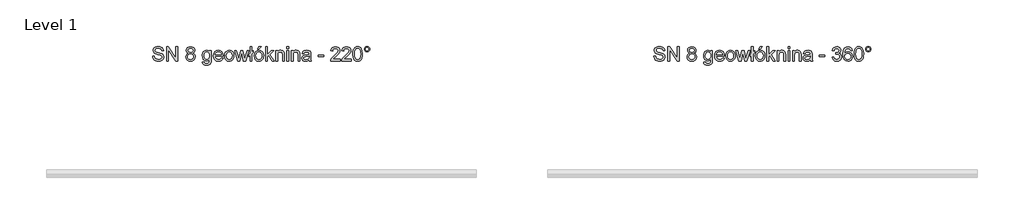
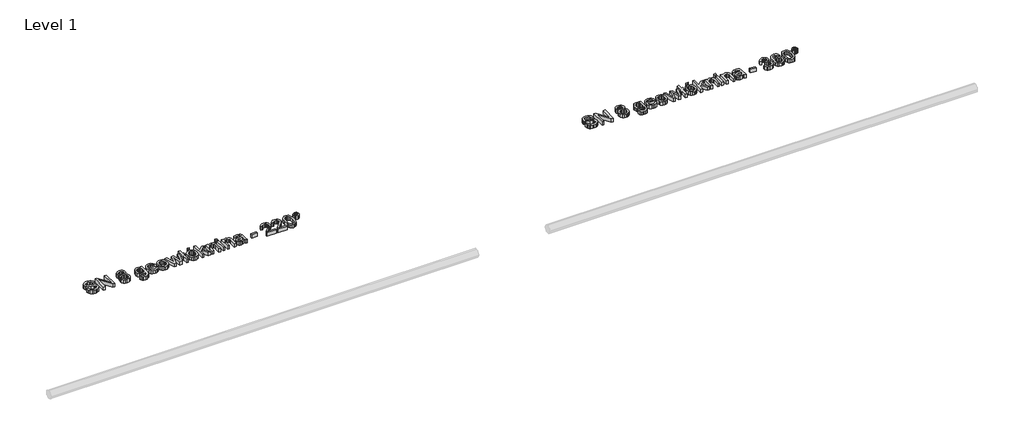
# One storey, part 6 of 9: 2 proxies.
"""IFC4 building model written with IfcOpenShell, lengths in millimetres."""

from ifc_helpers import new_model, si_unit, origin, origin_with_axes, place, context, project, spatial, polyline, outline, extrude, element, save

model = new_model("IFC4")

# Units and contexts
model_context = context("Model", 3, world=origin())
ifc_project = project(units=[si_unit("LENGTHUNIT", "METRE", prefix="MILLI")], contexts=[model_context])

# Site, building, storey
site = spatial("IfcSite", under=ifc_project)
building = spatial("IfcBuilding", under=site)
storey = spatial("IfcBuildingStorey", under=building, Name="Level 1", Elevation=0.0)

# Proxies
placement = place(None, origin())
element("IfcBuildingElementProxy", 1, Name="200mm Arial", ObjectType="200mm Arial", at=placement, inside=storey, context=model_context, shape_type="SweptSolid", body=[
    extrude(outline(polyline([(12447.9311838, 2231.0128426), (12473.0452613, 2231.0128426), (12481.1386652, 2205.8742396), (12489.2688573, 2196.983758), (12500.9061911, 2189.9817374), (12515.1309616, 2185.4383947), (12531.0234637, 2183.9239472), (12557.2657127, 2188.5102094), (12574.21281, 2201.1162991), (12579.7800908, 2217.9652945), (12575.6107616, 2233.6370675), (12569.2586658, 2239.8358791), (12558.541037, 2245.0414093), (12521.9735667, 2254.6308667), (12482.6101932, 2267.0162272), (12470.1083367, 2275.4652503), (12461.248512, 2285.7046325), (12455.9694054, 2297.5136446), (12454.2097032, 2310.6715573), (12456.3863383, 2325.3807057), (12462.9162437, 2339.0965728), (12473.6277411, 2350.7216438), (12488.3491523, 2359.1584042), (12506.0197508, 2364.2903581), (12525.5788102, 2366.0010093), (12546.7688131, 2364.2106503), (12565.3100657, 2358.8395732), (12580.5403803, 2349.9981425), (12591.7975694, 2337.796723), (12598.9222173, 2322.9956041), (12601.7549087, 2306.3550752), (12576.6408312, 2306.3550752), (12572.0300435, 2321.3401351), (12562.4160607, 2332.1558658), (12547.3942125, 2338.7041653), (12526.5598289, 2340.8869318), (12505.2349359, 2338.7286908), (12490.6054952, 2332.2539676), (12482.1442093, 2322.725824), (12479.3237807, 2311.4073212), (12481.3226062, 2301.7565502), (12487.3190827, 2293.9942401), (12501.4948023, 2287.0535332), (12528.3256625, 2279.9656734), (12572.7658075, 2267.3595837), (12587.0825484, 2258.2483729), (12597.0705446, 2247.0034466), (12602.9382624, 2233.7474321), (12604.8941684, 2218.6029566), (12602.6439568, 2203.121256), (12595.8933222, 2188.5592603), (12584.918176, 2176.026747), (12569.9944298, 2166.6334934), (12552.0479198, 2160.7657756), (12532.0044824, 2158.8098696), (12507.3993083, 2160.9190598), (12487.1474045, 2167.2466301), (12471.015779, 2177.8171061), (12458.7714399, 2192.6550132), (12450.9110279, 2210.7302819), (12447.9311838, 2231.0128426)])), origin_with_axes(), (0.0, 0.0, 1.0), 50.0),
    extrude(outline(polyline([(12642.5652847, 2161.9491293), (12642.5652847, 2362.8617496), (12669.4451958, 2362.8617496), (12774.4141918, 2203.6914731), (12774.4141918, 2362.8617496), (12799.5282693, 2362.8617496), (12799.5282693, 2161.9491293), (12772.6483582, 2161.9491293), (12667.6793622, 2321.1684569), (12667.6793622, 2161.9491293), (12642.5652847, 2161.9491293)])), origin_with_axes(), (0.0, 0.0, 1.0), 50.0),
    extrude(outline(polyline([(12949.133614, 2272.6080335), (12935.6875271, 2279.2299094), (12926.2513539, 2288.2062301), (12920.6779417, 2299.3530545), (12918.8201376, 2312.4864418), (12922.8668395, 2332.1190776), (12935.0069454, 2348.3426736), (12953.8792917, 2359.2319806), (12978.1227152, 2362.8617496), (13002.5132915, 2359.1461415), (13021.6308925, 2347.999317), (13033.9917276, 2331.5182037), (13038.1120059, 2311.7997287), (13036.2787273, 2299.0894058), (13030.7788915, 2288.1326537), (13021.5511848, 2279.2115153), (13008.5342935, 2272.6080335), (13023.9914687, 2264.6433883), (13035.2425263, 2252.914084), (13042.1035255, 2237.9842064), (13044.3905253, 2220.4178411), (13039.853314, 2196.4074096), (13026.2416802, 2176.5663073), (13005.2233555, 2163.2489791), (12978.4660717, 2158.8098696), (12951.708788, 2163.2673732), (12930.6904633, 2176.6398837), (12917.0788295, 2196.6710583), (12912.5416182, 2221.1045542), (12914.9205884, 2239.3515011), (12922.0574992, 2254.3610865), (12933.5844683, 2265.6182756), (12949.133614, 2272.6080335)]), holes=[polyline([(12943.9342151, 2311.7506778), (12946.1599012, 2300.7877943), (12952.8369594, 2292.0322028), (12963.769186, 2286.2932437), (12978.7603773, 2284.3802573), (12993.4020808, 2286.280981), (13004.1687605, 2291.9831519), (13010.7906364, 2300.4444378), (13012.9979284, 2310.6225063), (13010.71706, 2321.186851), (13003.8744549, 2329.9240483), (12992.9606224, 2335.7917662), (12978.4660717, 2337.7476721), (12963.8795506, 2335.8346857), (12952.9841122, 2330.0957266), (12946.1966894, 2321.6834916), (12943.9342151, 2311.7506778)]), polyline([(12937.6556958, 2221.987471), (12941.8495505, 2203.0783364), (12947.6559547, 2194.9665384), (12956.6874576, 2188.9271423), (12978.6622755, 2183.9239472), (12995.7565255, 2186.5543035), (13008.5833444, 2194.4453722), (13016.6031719, 2206.3954057), (13019.2764477, 2221.202656), (13016.5173328, 2236.2612924), (13008.2399879, 2248.4749746), (12995.1188634, 2256.5683785), (12977.8284096, 2259.2661798), (12960.9732829, 2256.6051667), (12948.2752227, 2248.6221274), (12940.3105775, 2236.6414371), (12937.6556958, 2221.987471)])]), origin_with_axes(), (0.0, 0.0, 1.0), 50.0),
    extrude(outline(polyline([(13144.8468354, 2149.3920906), (13169.960913, 2146.2528309), (13172.7322907, 2138.4046817), (13178.1033678, 2133.0090791), (13188.6615811, 2128.8152243), (13202.4816813, 2127.4172727), (13217.2214866, 2128.9991653), (13228.1843701, 2133.744843), (13235.7872646, 2141.3477376), (13240.4471032, 2151.5012807), (13242.1638859, 2180.7846875), (13224.4810247, 2166.6580189), (13202.9231397, 2161.9491293), (13177.0303786, 2167.4305711), (13157.7227053, 2183.8748963), (13145.7113581, 2207.9834297), (13141.7075757, 2236.4574961), (13143.5040662, 2256.7339254), (13148.8935374, 2275.3794112), (13157.6859171, 2291.1799429), (13169.6911328, 2302.9215099), (13184.4983831, 2310.2055734), (13201.6968664, 2312.6335946), (13224.1008799, 2307.1398901), (13242.1638859, 2290.6587767), (13242.1638859, 2309.4943349), (13267.2779634, 2309.4943349), (13267.2779634, 2182.1090627), (13265.5611808, 2152.6968972), (13260.4108329, 2133.3279101), (13251.5387454, 2120.4826971), (13238.6567442, 2110.6418537), (13222.0468721, 2104.3878598), (13201.991172, 2102.3031952), (13178.624534, 2105.2401198), (13160.2243028, 2114.0508936), (13148.4214222, 2128.760042), (13144.8468354, 2149.3920906)]), holes=[polyline([(13166.8216533, 2238.1742787), (13169.5010605, 2215.1387345), (13177.5392821, 2199.3014146), (13189.6242056, 2190.1227588), (13204.4437187, 2187.0632069), (13219.1528671, 2190.1043647), (13231.2991043, 2199.2278382), (13239.4476905, 2214.862823), (13242.1638859, 2237.4385148), (13239.3679827, 2259.2109975), (13230.9802732, 2274.8889019), (13218.6562264, 2284.3618632), (13204.0513112, 2287.519517), (13189.7100447, 2284.4109142), (13177.6864349, 2275.0851056), (13169.5378487, 2259.6401932), (13166.8216533, 2238.1742787)])]), origin_with_axes(), (0.0, 0.0, 1.0), 50.0),
    extrude(outline(polyline([(13408.250344, 2205.898765), (13432.8739122, 2202.7595053), (13424.0018247, 2184.20599), (13409.8444993, 2170.3368388), (13390.7207669, 2161.6916119), (13366.9494587, 2158.8098696), (13337.4821108, 2163.782408), (13314.8083172, 2178.7000229), (13300.3505548, 2202.5939584), (13295.5313007, 2234.4954588), (13300.3996057, 2267.4699483), (13315.0045209, 2292.1303047), (13337.3717462, 2307.5077721), (13365.5269816, 2312.6335946), (13392.8054315, 2307.5200348), (13414.6024398, 2292.1793556), (13428.8946553, 2267.5680502), (13433.6587271, 2234.6426116), (13433.5115743, 2227.8735829), (13320.6453782, 2227.8735829), (13324.9925171, 2209.0748129), (13335.0908779, 2195.2547126), (13349.6651362, 2186.7566385), (13367.439968, 2183.9239472), (13392.0635362, 2189.172397), (13401.2115351, 2195.9782139), (13408.250344, 2205.898765)]), holes=[polyline([(13320.6453782, 2252.9876604), (13408.5446496, 2252.9876604), (13405.1478725, 2266.2559377), (13398.4892084, 2275.7472932), (13383.847505, 2284.5764611), (13365.4288797, 2287.519517), (13348.5001766, 2285.1712036), (13334.5022667, 2278.1262634), (13324.7717879, 2267.1449859), (13320.6453782, 2252.9876604)])]), origin_with_axes(), (0.0, 0.0, 1.0), 50.0),
    extrude(outline(polyline([(13452.4942853, 2235.7217321), (13457.9266761, 2271.295921), (13464.7171646, 2285.119087), (13474.2238484, 2296.299634), (13494.3592563, 2308.5501044), (13518.4677897, 2312.6335946), (13544.8510602, 2307.6610563), (13565.9245671, 2292.7434414), (13579.738536, 2269.0579722), (13584.3431923, 2237.7818713), (13582.3075786, 2212.4102763), (13576.2007375, 2193.0964716), (13566.2004786, 2178.6325778), (13552.4846116, 2167.8107158), (13536.1935705, 2161.0600812), (13518.4677897, 2158.8098696), (13491.7656883, 2163.7640139), (13470.7167068, 2178.6264465), (13457.0498906, 2202.8085563), (13452.4942853, 2235.7217321)]), holes=[polyline([(13477.6083628, 2235.770783), (13480.5146306, 2213.0418071), (13489.2334339, 2196.848868), (13502.3545583, 2187.1551774), (13518.4677897, 2183.9239472), (13534.5074447, 2187.1735715), (13547.6040438, 2196.9224443), (13556.322847, 2213.3299813), (13559.2291148, 2236.555598), (13556.3044529, 2258.6223863), (13547.5304674, 2274.5945963), (13534.4154742, 2284.2882868), (13518.4677897, 2287.519517), (13502.3545583, 2284.3005496), (13489.2334339, 2274.6436472), (13480.5146306, 2258.4874962), (13477.6083628, 2235.770783)])]), origin_with_axes(), (0.0, 0.0, 1.0), 50.0),
    extrude(outline(polyline([(13637.072945, 2161.9491293), (13592.1913416, 2309.4943349), (13618.2864378, 2309.4943349), (13643.7438718, 2223.409948), (13651.3467664, 2192.6550132), (13657.5762348, 2222.2817766), (13677.83427, 2309.4943349), (13707.755339, 2309.4943349), (13727.9152723, 2222.5270312), (13733.4580277, 2195.696171), (13741.4042788, 2223.9985592), (13766.9107638, 2309.4943349), (13793.1039619, 2309.4943349), (13747.8790019, 2161.9491293), (13717.5164746, 2161.9491293), (13698.239458, 2248.4749746), (13692.6476517, 2275.4529876), (13667.7788288, 2161.9491293), (13637.072945, 2161.9491293)])), origin_with_axes(), (0.0, 0.0, 1.0), 50.0),
    extrude(outline(polyline([(13810.3698902, 2241.3625894), (13791.534332, 2226.303953), (13791.534332, 2254.5572903), (13810.3698902, 2269.6159266), (13810.3698902, 2362.8617496), (13835.4839677, 2362.8617496), (13835.4839677, 2289.726809), (13854.3195259, 2304.7854453), (13854.3195259, 2276.5321081), (13835.4839677, 2261.4734718), (13835.4839677, 2161.9491293), (13810.3698902, 2161.9491293), (13810.3698902, 2241.3625894)])), origin_with_axes(), (0.0, 0.0, 1.0), 50.0),
    extrude(outline(polyline([(13913.96546, 2325.1906333), (13932.8010182, 2362.8617496), (13964.1936151, 2362.8617496), (13932.8010182, 2325.1906333), (13913.96546, 2325.1906333)])), origin_with_axes(), (0.0, 0.0, 1.0), 50.0),
    extrude(outline(polyline([(13866.8765646, 2235.7217321), (13872.3089554, 2271.295921), (13879.0994439, 2285.119087), (13888.6061278, 2296.299634), (13908.7415357, 2308.5501044), (13932.8500691, 2312.6335946), (13959.2333395, 2307.6610563), (13980.3068465, 2292.7434414), (13994.1208154, 2269.0579722), (13998.7254717, 2237.7818713), (13996.689858, 2212.4102763), (13990.5830169, 2193.0964716), (13980.582758, 2178.6325778), (13966.8668909, 2167.8107158), (13950.5758499, 2161.0600812), (13932.8500691, 2158.8098696), (13906.1479676, 2163.7640139), (13885.0989861, 2178.6264465), (13871.43217, 2202.8085563), (13866.8765646, 2235.7217321)]), holes=[polyline([(13891.9906422, 2235.770783), (13894.8969099, 2213.0418071), (13903.6157132, 2196.848868), (13916.7368377, 2187.1551774), (13932.8500691, 2183.9239472), (13948.8897241, 2187.1735715), (13961.9863231, 2196.9224443), (13970.7051264, 2213.3299813), (13973.6113942, 2236.555598), (13970.6867323, 2258.6223863), (13961.9127467, 2274.5945963), (13948.7977536, 2284.2882868), (13932.8500691, 2287.519517), (13916.7368377, 2284.3005496), (13903.6157132, 2274.6436472), (13894.8969099, 2258.4874962), (13891.9906422, 2235.770783)])]), origin_with_axes(), (0.0, 0.0, 1.0), 50.0),
    extrude(outline(polyline([(14026.9788089, 2161.9491293), (14026.9788089, 2362.8617496), (14052.0928865, 2362.8617496), (14052.0928865, 2254.9006468), (14108.4033572, 2309.4943349), (14143.1314175, 2309.4943349), (14086.1342338, 2254.2139337), (14146.2706772, 2161.9491293), (14116.9382195, 2161.9491293), (14068.1325415, 2236.7518017), (14052.0928865, 2221.202656), (14052.0928865, 2161.9491293), (14026.9788089, 2161.9491293)])), origin_with_axes(), (0.0, 0.0, 1.0), 50.0),
    extrude(outline(polyline([(14168.2454951, 2161.9491293), (14168.2454951, 2309.4943349), (14193.3595726, 2309.4943349), (14193.3595726, 2288.8929431), (14202.0845073, 2299.2794781), (14212.5630128, 2306.6984317), (14224.7950891, 2311.1498039), (14238.7807363, 2312.6335946), (14262.4968622, 2307.8511286), (14278.68367, 2295.2940899), (14286.2129882, 2276.8264137), (14287.5373634, 2252.546202), (14287.5373634, 2161.9491293), (14262.4232858, 2161.9491293), (14262.4232858, 2249.1616877), (14259.5292808, 2271.3817602), (14249.3021614, 2283.1294586), (14232.0607585, 2287.519517), (14217.3516101, 2285.0547077), (14204.8129654, 2277.6602796), (14196.2229208, 2263.3741954), (14193.3595726, 2240.2344179), (14193.3595726, 2161.9491293), (14168.2454951, 2161.9491293)])), origin_with_axes(), (0.0, 0.0, 1.0), 50.0),
    extrude(outline(polyline([(14322.06922, 2337.7476721), (14322.06922, 2362.8617496), (14347.1832975, 2362.8617496), (14347.1832975, 2337.7476721), (14322.06922, 2337.7476721)])), origin_with_axes(), (0.0, 0.0, 1.0), 50.0),
    extrude(outline(polyline([(14322.06922, 2161.9491293), (14322.06922, 2309.4943349), (14347.1832975, 2309.4943349), (14347.1832975, 2161.9491293), (14322.06922, 2161.9491293)])), origin_with_axes(), (0.0, 0.0, 1.0), 50.0),
    extrude(outline(polyline([(14384.8544138, 2161.9491293), (14384.8544138, 2309.4943349), (14409.9684914, 2309.4943349), (14409.9684914, 2288.8929431), (14418.693426, 2299.2794781), (14429.1719315, 2306.6984317), (14441.4040079, 2311.1498039), (14455.3896551, 2312.6335946), (14479.105781, 2307.8511286), (14495.2925888, 2295.2940899), (14502.821907, 2276.8264137), (14504.1462821, 2252.546202), (14504.1462821, 2161.9491293), (14479.0322046, 2161.9491293), (14479.0322046, 2249.1616877), (14476.1381996, 2271.3817602), (14465.9110801, 2283.1294586), (14448.6696773, 2287.519517), (14433.9605288, 2285.0547077), (14421.4218842, 2277.6602796), (14412.8318396, 2263.3741954), (14409.9684914, 2240.2344179), (14409.9684914, 2161.9491293), (14384.8544138, 2161.9491293)])), origin_with_axes(), (0.0, 0.0, 1.0), 50.0),
    extrude(outline(polyline([(14632.8559295, 2180.7846875), (14608.5021414, 2163.7640139), (14581.5977049, 2158.8098696), (14560.610037, 2161.7897138), (14545.1283364, 2170.7292463), (14535.5817986, 2184.3040919), (14532.3996194, 2201.1898755), (14537.2066108, 2221.0555032), (14549.8372259, 2235.4764774), (14567.4219853, 2243.7170341), (14589.1515485, 2247.493956), (14632.7087767, 2256.1269201), (14632.8559295, 2261.7187264), (14631.1268841, 2272.9268646), (14625.939748, 2280.259979), (14614.3392024, 2285.7046325), (14598.1769201, 2287.519517), (14583.2163856, 2286.3116378), (14572.768537, 2282.6880002), (14565.643889, 2275.9864165), (14560.6529566, 2265.5446992), (14535.5388791, 2268.6839589), (14546.4036607, 2293.2094252), (14555.6620242, 2301.4622446), (14568.2803766, 2307.5813485), (14601.4142817, 2312.6335946), (14631.8503854, 2308.1699597), (14649.0427373, 2296.9618216), (14656.7437337, 2279.9166225), (14657.9700071, 2257.9418046), (14657.9700071, 2226.6963605), (14659.2453313, 2183.0655559), (14664.2485264, 2161.9491293), (14639.1344489, 2161.9491293), (14632.8559295, 2180.7846875)]), holes=[polyline([(14632.8559295, 2231.0128426), (14592.3398591, 2223.3118461), (14570.7329233, 2219.2406187), (14560.9472622, 2212.6187428), (14557.5136969, 2202.9557091), (14559.3837637, 2195.4877046), (14564.9939641, 2189.3686007), (14574.2216709, 2185.2851106), (14586.9442565, 2183.9239472), (14600.433263, 2185.426132), (14612.3526397, 2189.9326864), (14628.7356512, 2204.476288), (14632.7087767, 2223.9004573), (14632.8559295, 2231.0128426)])]), origin_with_axes(), (0.0, 0.0, 1.0), 50.0),
    extrude(outline(polyline([(14758.4263172, 2221.5950635), (14758.4263172, 2246.709141), (14836.9078095, 2246.709141), (14836.9078095, 2221.5950635), (14758.4263172, 2221.5950635)])), origin_with_axes(), (0.0, 0.0, 1.0), 50.0),
    extrude(outline(polyline([(15066.073767, 2187.0632069), (15066.073767, 2161.9491293), (14934.22486, 2161.9491293), (14936.9226613, 2179.2641086), (14952.1775013, 2205.9232905), (14983.6191492, 2235.0350191), (15026.9801737, 2276.8754646), (15035.1103658, 2291.2964388), (15037.8204298, 2305.3250056), (15035.2636499, 2317.9004385), (15027.5933103, 2328.3544185), (15015.8026924, 2335.3993587), (15000.8850775, 2337.7476721), (14985.2194359, 2335.454541), (14973.0486732, 2328.5751477), (14965.1943926, 2317.6490524), (14962.4781972, 2303.2158155), (14937.3641197, 2306.3550752), (14943.4525667, 2330.6475496), (14956.6166107, 2348.3917245), (14976.1695388, 2359.2442434), (15001.4246378, 2362.8617496), (15026.8636777, 2358.8395732), (15046.3798176, 2346.7730437), (15058.7958349, 2328.746826), (15062.9345074, 2306.8455845), (15058.4708725, 2283.0313567), (15043.6329653, 2258.4077885), (15007.6541062, 2223.9985592), (14978.7631069, 2199.8409748), (14967.4323414, 2187.0632069), (15066.073767, 2187.0632069)])), origin_with_axes(), (0.0, 0.0, 1.0), 50.0),
    extrude(outline(polyline([(15219.897492, 2187.0632069), (15219.897492, 2161.9491293), (15088.0485849, 2161.9491293), (15090.7463862, 2179.2641086), (15106.0012263, 2205.9232905), (15137.4428741, 2235.0350191), (15180.8038986, 2276.8754646), (15188.9340907, 2291.2964388), (15191.6441547, 2305.3250056), (15189.0873749, 2317.9004385), (15181.4170353, 2328.3544185), (15169.6264173, 2335.3993587), (15154.7088024, 2337.7476721), (15139.0431608, 2335.454541), (15126.8723981, 2328.5751477), (15119.0181175, 2317.6490524), (15116.3019221, 2303.2158155), (15091.1878446, 2306.3550752), (15097.2762916, 2330.6475496), (15110.4403357, 2348.3917245), (15129.9932637, 2359.2442434), (15155.2483627, 2362.8617496), (15180.6874026, 2358.8395732), (15200.2035425, 2346.7730437), (15212.6195598, 2328.746826), (15216.7582323, 2306.8455845), (15212.2945974, 2283.0313567), (15197.4566903, 2258.4077885), (15161.4778311, 2223.9985592), (15132.5868318, 2199.8409748), (15121.2560663, 2187.0632069), (15219.897492, 2187.0632069)])), origin_with_axes(), (0.0, 0.0, 1.0), 50.0),
    extrude(outline(polyline([(15245.0115695, 2260.7867587), (15246.8571108, 2292.9457765), (15252.3937349, 2318.5932829), (15261.5662593, 2338.1216855), (15274.3195018, 2351.9233917), (15290.7454329, 2360.1271601), (15310.936023, 2362.8617496), (15326.4115923, 2361.2430689), (15340.2684808, 2356.3870265), (15351.8567636, 2348.483695), (15360.526516, 2337.7231466), (15372.2987398, 2307.9982814), (15376.8604766, 2260.7867587), (15375.0333293, 2228.811682), (15369.5518876, 2203.2254892), (15360.4345455, 2183.6786925), (15347.6996971, 2169.821804), (15331.2369778, 2161.5628532), (15310.936023, 2158.8098696), (15284.8409268, 2163.5923356), (15265.02435, 2177.9397334), (15256.2687586, 2193.0688805), (15250.0147646, 2211.919767), (15245.0115695, 2260.7867587)]), holes=[polyline([(15270.125647, 2260.8358096), (15273.068703, 2221.3314147), (15281.8978709, 2198.4675487), (15295.0435208, 2187.5598476), (15310.936023, 2183.9239472), (15326.8285252, 2187.5721103), (15339.9741752, 2198.5165997), (15348.8033431, 2221.3927284), (15351.746399, 2260.8358096), (15348.9014449, 2299.4511564), (15340.3665826, 2322.492832), (15327.2454582, 2333.9339621), (15310.6417174, 2337.7476721), (15294.9208935, 2334.3876832), (15282.2902783, 2324.3077165), (15273.1668049, 2299.8313011), (15270.125647, 2260.8358096)])]), origin_with_axes(), (0.0, 0.0, 1.0), 50.0),
    extrude(outline(polyline([(15405.1138138, 2328.378944), (15407.8790601, 2342.8612318), (15416.1747991, 2355.0136004), (15428.3455618, 2363.2541571), (15442.7358792, 2366.0010093), (15457.2917434, 2363.2541571), (15469.4686375, 2355.0136004), (15477.7091942, 2342.8612318), (15480.4560464, 2328.378944), (15477.6908001, 2313.9150502), (15469.3950611, 2301.719762), (15457.199773, 2293.4240231), (15442.7358792, 2290.6587767), (15428.3455618, 2293.405629), (15416.1747991, 2301.6461856), (15407.8790601, 2313.8230797), (15405.1138138, 2328.378944)]), holes=[polyline([(15420.8101123, 2328.329893), (15422.4226617, 2319.8808699), (15427.2603099, 2312.7807474), (15434.3788265, 2307.9614932), (15442.833981, 2306.3550752), (15451.2155592, 2307.9614932), (15458.3095503, 2312.7807474), (15463.1471985, 2319.8808699), (15464.759748, 2328.329893), (15463.1471985, 2336.7789162), (15458.3095503, 2343.8790387), (15451.2155592, 2348.6982928), (15442.833981, 2350.3047109), (15434.3788265, 2348.6982928), (15427.2603099, 2343.8790387), (15422.4226617, 2336.7789162), (15420.8101123, 2328.329893)])]), origin_with_axes(), (0.0, 0.0, 1.0), 50.0),
])
element("IfcBuildingElementProxy", 2, Name="200mm Arial", ObjectType="200mm Arial", at=placement, inside=storey, context=model_context, shape_type="SweptSolid", body=[
    extrude(outline(polyline([(19447.9311838, 2231.0128426), (19473.0452613, 2231.0128426), (19481.1386652, 2205.8742396), (19489.2688573, 2196.983758), (19500.9061911, 2189.9817374), (19515.1309616, 2185.4383947), (19531.0234637, 2183.9239472), (19557.2657127, 2188.5102094), (19574.21281, 2201.1162991), (19579.7800908, 2217.9652945), (19575.6107616, 2233.6370675), (19569.2586658, 2239.8358791), (19558.541037, 2245.0414093), (19521.9735667, 2254.6308667), (19482.6101932, 2267.0162272), (19470.1083367, 2275.4652503), (19461.248512, 2285.7046325), (19455.9694054, 2297.5136446), (19454.2097032, 2310.6715573), (19456.3863383, 2325.3807057), (19462.9162437, 2339.0965728), (19473.6277411, 2350.7216438), (19488.3491523, 2359.1584042), (19506.0197508, 2364.2903581), (19525.5788102, 2366.0010093), (19546.7688131, 2364.2106503), (19565.3100657, 2358.8395732), (19580.5403803, 2349.9981425), (19591.7975694, 2337.796723), (19598.9222173, 2322.9956041), (19601.7549087, 2306.3550752), (19576.6408312, 2306.3550752), (19572.0300435, 2321.3401351), (19562.4160607, 2332.1558658), (19547.3942125, 2338.7041653), (19526.5598289, 2340.8869318), (19505.2349359, 2338.7286908), (19490.6054952, 2332.2539676), (19482.1442093, 2322.725824), (19479.3237807, 2311.4073212), (19481.3226062, 2301.7565502), (19487.3190827, 2293.9942401), (19501.4948023, 2287.0535332), (19528.3256625, 2279.9656734), (19572.7658075, 2267.3595837), (19587.0825484, 2258.2483729), (19597.0705446, 2247.0034466), (19602.9382624, 2233.7474321), (19604.8941684, 2218.6029566), (19602.6439568, 2203.121256), (19595.8933222, 2188.5592603), (19584.918176, 2176.026747), (19569.9944298, 2166.6334934), (19552.0479198, 2160.7657756), (19532.0044824, 2158.8098696), (19507.3993083, 2160.9190598), (19487.1474045, 2167.2466301), (19471.015779, 2177.8171061), (19458.7714399, 2192.6550132), (19450.9110279, 2210.7302819), (19447.9311838, 2231.0128426)])), origin_with_axes(), (0.0, 0.0, 1.0), 50.0),
    extrude(outline(polyline([(19642.5652847, 2161.9491293), (19642.5652847, 2362.8617496), (19669.4451958, 2362.8617496), (19774.4141918, 2203.6914731), (19774.4141918, 2362.8617496), (19799.5282693, 2362.8617496), (19799.5282693, 2161.9491293), (19772.6483582, 2161.9491293), (19667.6793622, 2321.1684569), (19667.6793622, 2161.9491293), (19642.5652847, 2161.9491293)])), origin_with_axes(), (0.0, 0.0, 1.0), 50.0),
    extrude(outline(polyline([(19949.133614, 2272.6080335), (19935.6875271, 2279.2299094), (19926.2513539, 2288.2062301), (19920.6779417, 2299.3530545), (19918.8201376, 2312.4864418), (19922.8668395, 2332.1190776), (19935.0069454, 2348.3426736), (19953.8792917, 2359.2319806), (19978.1227152, 2362.8617496), (20002.5132915, 2359.1461415), (20021.6308925, 2347.999317), (20033.9917276, 2331.5182037), (20038.1120059, 2311.7997287), (20036.2787273, 2299.0894058), (20030.7788915, 2288.1326537), (20021.5511848, 2279.2115153), (20008.5342935, 2272.6080335), (20023.9914687, 2264.6433883), (20035.2425263, 2252.914084), (20042.1035255, 2237.9842064), (20044.3905253, 2220.4178411), (20039.853314, 2196.4074096), (20026.2416802, 2176.5663073), (20005.2233555, 2163.2489791), (19978.4660717, 2158.8098696), (19951.708788, 2163.2673732), (19930.6904633, 2176.6398837), (19917.0788295, 2196.6710583), (19912.5416182, 2221.1045542), (19914.9205884, 2239.3515011), (19922.0574992, 2254.3610865), (19933.5844683, 2265.6182756), (19949.133614, 2272.6080335)]), holes=[polyline([(19943.9342151, 2311.7506778), (19946.1599012, 2300.7877943), (19952.8369594, 2292.0322028), (19963.769186, 2286.2932437), (19978.7603773, 2284.3802573), (19993.4020808, 2286.280981), (20004.1687605, 2291.9831519), (20010.7906364, 2300.4444378), (20012.9979284, 2310.6225063), (20010.71706, 2321.186851), (20003.8744549, 2329.9240483), (19992.9606224, 2335.7917662), (19978.4660717, 2337.7476721), (19963.8795506, 2335.8346857), (19952.9841122, 2330.0957266), (19946.1966894, 2321.6834916), (19943.9342151, 2311.7506778)]), polyline([(19937.6556958, 2221.987471), (19941.8495505, 2203.0783364), (19947.6559547, 2194.9665384), (19956.6874576, 2188.9271423), (19978.6622755, 2183.9239472), (19995.7565255, 2186.5543035), (20008.5833444, 2194.4453722), (20016.6031719, 2206.3954057), (20019.2764477, 2221.202656), (20016.5173328, 2236.2612924), (20008.2399879, 2248.4749746), (19995.1188634, 2256.5683785), (19977.8284096, 2259.2661798), (19960.9732829, 2256.6051667), (19948.2752227, 2248.6221274), (19940.3105775, 2236.6414371), (19937.6556958, 2221.987471)])]), origin_with_axes(), (0.0, 0.0, 1.0), 50.0),
    extrude(outline(polyline([(20144.8468354, 2149.3920906), (20169.960913, 2146.2528309), (20172.7322907, 2138.4046817), (20178.1033678, 2133.0090791), (20188.6615811, 2128.8152243), (20202.4816813, 2127.4172727), (20217.2214866, 2128.9991653), (20228.1843701, 2133.744843), (20235.7872646, 2141.3477376), (20240.4471032, 2151.5012807), (20242.1638859, 2180.7846875), (20224.4810247, 2166.6580189), (20202.9231397, 2161.9491293), (20177.0303786, 2167.4305711), (20157.7227053, 2183.8748963), (20145.7113581, 2207.9834297), (20141.7075757, 2236.4574961), (20143.5040662, 2256.7339254), (20148.8935374, 2275.3794112), (20157.6859171, 2291.1799429), (20169.6911328, 2302.9215099), (20184.4983831, 2310.2055734), (20201.6968664, 2312.6335946), (20224.1008799, 2307.1398901), (20242.1638859, 2290.6587767), (20242.1638859, 2309.4943349), (20267.2779634, 2309.4943349), (20267.2779634, 2182.1090627), (20265.5611808, 2152.6968972), (20260.4108329, 2133.3279101), (20251.5387454, 2120.4826971), (20238.6567442, 2110.6418537), (20222.0468721, 2104.3878598), (20201.991172, 2102.3031952), (20178.624534, 2105.2401198), (20160.2243028, 2114.0508936), (20148.4214222, 2128.760042), (20144.8468354, 2149.3920906)]), holes=[polyline([(20166.8216533, 2238.1742787), (20169.5010605, 2215.1387345), (20177.5392821, 2199.3014146), (20189.6242056, 2190.1227588), (20204.4437187, 2187.0632069), (20219.1528671, 2190.1043647), (20231.2991043, 2199.2278382), (20239.4476905, 2214.862823), (20242.1638859, 2237.4385148), (20239.3679827, 2259.2109975), (20230.9802732, 2274.8889019), (20218.6562264, 2284.3618632), (20204.0513112, 2287.519517), (20189.7100447, 2284.4109142), (20177.6864349, 2275.0851056), (20169.5378487, 2259.6401932), (20166.8216533, 2238.1742787)])]), origin_with_axes(), (0.0, 0.0, 1.0), 50.0),
    extrude(outline(polyline([(20408.250344, 2205.898765), (20432.8739122, 2202.7595053), (20424.0018247, 2184.20599), (20409.8444993, 2170.3368388), (20390.7207669, 2161.6916119), (20366.9494587, 2158.8098696), (20337.4821108, 2163.782408), (20314.8083172, 2178.7000229), (20300.3505548, 2202.5939584), (20295.5313007, 2234.4954588), (20300.3996057, 2267.4699483), (20315.0045209, 2292.1303047), (20337.3717462, 2307.5077721), (20365.5269816, 2312.6335946), (20392.8054315, 2307.5200348), (20414.6024398, 2292.1793556), (20428.8946553, 2267.5680502), (20433.6587271, 2234.6426116), (20433.5115743, 2227.8735829), (20320.6453782, 2227.8735829), (20324.9925171, 2209.0748129), (20335.0908779, 2195.2547126), (20349.6651362, 2186.7566385), (20367.439968, 2183.9239472), (20392.0635362, 2189.172397), (20401.2115351, 2195.9782139), (20408.250344, 2205.898765)]), holes=[polyline([(20320.6453782, 2252.9876604), (20408.5446496, 2252.9876604), (20405.1478725, 2266.2559377), (20398.4892084, 2275.7472932), (20383.847505, 2284.5764611), (20365.4288797, 2287.519517), (20348.5001766, 2285.1712036), (20334.5022667, 2278.1262634), (20324.7717879, 2267.1449859), (20320.6453782, 2252.9876604)])]), origin_with_axes(), (0.0, 0.0, 1.0), 50.0),
    extrude(outline(polyline([(20452.4942853, 2235.7217321), (20457.9266761, 2271.295921), (20464.7171646, 2285.119087), (20474.2238484, 2296.299634), (20494.3592563, 2308.5501044), (20518.4677897, 2312.6335946), (20544.8510602, 2307.6610563), (20565.9245671, 2292.7434414), (20579.738536, 2269.0579722), (20584.3431923, 2237.7818713), (20582.3075786, 2212.4102763), (20576.2007375, 2193.0964716), (20566.2004786, 2178.6325778), (20552.4846116, 2167.8107158), (20536.1935705, 2161.0600812), (20518.4677897, 2158.8098696), (20491.7656883, 2163.7640139), (20470.7167068, 2178.6264465), (20457.0498906, 2202.8085563), (20452.4942853, 2235.7217321)]), holes=[polyline([(20477.6083628, 2235.770783), (20480.5146306, 2213.0418071), (20489.2334339, 2196.848868), (20502.3545583, 2187.1551774), (20518.4677897, 2183.9239472), (20534.5074447, 2187.1735715), (20547.6040438, 2196.9224443), (20556.322847, 2213.3299813), (20559.2291148, 2236.555598), (20556.3044529, 2258.6223863), (20547.5304674, 2274.5945963), (20534.4154742, 2284.2882868), (20518.4677897, 2287.519517), (20502.3545583, 2284.3005496), (20489.2334339, 2274.6436472), (20480.5146306, 2258.4874962), (20477.6083628, 2235.770783)])]), origin_with_axes(), (0.0, 0.0, 1.0), 50.0),
    extrude(outline(polyline([(20637.072945, 2161.9491293), (20592.1913416, 2309.4943349), (20618.2864378, 2309.4943349), (20643.7438718, 2223.409948), (20651.3467664, 2192.6550132), (20657.5762348, 2222.2817766), (20677.83427, 2309.4943349), (20707.755339, 2309.4943349), (20727.9152723, 2222.5270312), (20733.4580277, 2195.696171), (20741.4042788, 2223.9985592), (20766.9107638, 2309.4943349), (20793.1039619, 2309.4943349), (20747.8790019, 2161.9491293), (20717.5164746, 2161.9491293), (20698.239458, 2248.4749746), (20692.6476517, 2275.4529876), (20667.7788288, 2161.9491293), (20637.072945, 2161.9491293)])), origin_with_axes(), (0.0, 0.0, 1.0), 50.0),
    extrude(outline(polyline([(20810.3698902, 2241.3625894), (20791.534332, 2226.303953), (20791.534332, 2254.5572903), (20810.3698902, 2269.6159266), (20810.3698902, 2362.8617496), (20835.4839677, 2362.8617496), (20835.4839677, 2289.726809), (20854.3195259, 2304.7854453), (20854.3195259, 2276.5321081), (20835.4839677, 2261.4734718), (20835.4839677, 2161.9491293), (20810.3698902, 2161.9491293), (20810.3698902, 2241.3625894)])), origin_with_axes(), (0.0, 0.0, 1.0), 50.0),
    extrude(outline(polyline([(20913.96546, 2325.1906333), (20932.8010182, 2362.8617496), (20964.1936151, 2362.8617496), (20932.8010182, 2325.1906333), (20913.96546, 2325.1906333)])), origin_with_axes(), (0.0, 0.0, 1.0), 50.0),
    extrude(outline(polyline([(20866.8765646, 2235.7217321), (20872.3089554, 2271.295921), (20879.0994439, 2285.119087), (20888.6061278, 2296.299634), (20908.7415357, 2308.5501044), (20932.8500691, 2312.6335946), (20959.2333395, 2307.6610563), (20980.3068465, 2292.7434414), (20994.1208154, 2269.0579722), (20998.7254717, 2237.7818713), (20996.689858, 2212.4102763), (20990.5830169, 2193.0964716), (20980.582758, 2178.6325778), (20966.8668909, 2167.8107158), (20950.5758499, 2161.0600812), (20932.8500691, 2158.8098696), (20906.1479676, 2163.7640139), (20885.0989861, 2178.6264465), (20871.43217, 2202.8085563), (20866.8765646, 2235.7217321)]), holes=[polyline([(20891.9906422, 2235.770783), (20894.8969099, 2213.0418071), (20903.6157132, 2196.848868), (20916.7368377, 2187.1551774), (20932.8500691, 2183.9239472), (20948.8897241, 2187.1735715), (20961.9863231, 2196.9224443), (20970.7051264, 2213.3299813), (20973.6113942, 2236.555598), (20970.6867323, 2258.6223863), (20961.9127467, 2274.5945963), (20948.7977536, 2284.2882868), (20932.8500691, 2287.519517), (20916.7368377, 2284.3005496), (20903.6157132, 2274.6436472), (20894.8969099, 2258.4874962), (20891.9906422, 2235.770783)])]), origin_with_axes(), (0.0, 0.0, 1.0), 50.0),
    extrude(outline(polyline([(21026.9788089, 2161.9491293), (21026.9788089, 2362.8617496), (21052.0928865, 2362.8617496), (21052.0928865, 2254.9006468), (21108.4033572, 2309.4943349), (21143.1314175, 2309.4943349), (21086.1342338, 2254.2139337), (21146.2706772, 2161.9491293), (21116.9382195, 2161.9491293), (21068.1325415, 2236.7518017), (21052.0928865, 2221.202656), (21052.0928865, 2161.9491293), (21026.9788089, 2161.9491293)])), origin_with_axes(), (0.0, 0.0, 1.0), 50.0),
    extrude(outline(polyline([(21168.2454951, 2161.9491293), (21168.2454951, 2309.4943349), (21193.3595726, 2309.4943349), (21193.3595726, 2288.8929431), (21202.0845073, 2299.2794781), (21212.5630128, 2306.6984317), (21224.7950891, 2311.1498039), (21238.7807363, 2312.6335946), (21262.4968622, 2307.8511286), (21278.68367, 2295.2940899), (21286.2129882, 2276.8264137), (21287.5373634, 2252.546202), (21287.5373634, 2161.9491293), (21262.4232858, 2161.9491293), (21262.4232858, 2249.1616877), (21259.5292808, 2271.3817602), (21249.3021614, 2283.1294586), (21232.0607585, 2287.519517), (21217.3516101, 2285.0547077), (21204.8129654, 2277.6602796), (21196.2229208, 2263.3741954), (21193.3595726, 2240.2344179), (21193.3595726, 2161.9491293), (21168.2454951, 2161.9491293)])), origin_with_axes(), (0.0, 0.0, 1.0), 50.0),
    extrude(outline(polyline([(21322.06922, 2337.7476721), (21322.06922, 2362.8617496), (21347.1832975, 2362.8617496), (21347.1832975, 2337.7476721), (21322.06922, 2337.7476721)])), origin_with_axes(), (0.0, 0.0, 1.0), 50.0),
    extrude(outline(polyline([(21322.06922, 2161.9491293), (21322.06922, 2309.4943349), (21347.1832975, 2309.4943349), (21347.1832975, 2161.9491293), (21322.06922, 2161.9491293)])), origin_with_axes(), (0.0, 0.0, 1.0), 50.0),
    extrude(outline(polyline([(21384.8544138, 2161.9491293), (21384.8544138, 2309.4943349), (21409.9684914, 2309.4943349), (21409.9684914, 2288.8929431), (21418.693426, 2299.2794781), (21429.1719315, 2306.6984317), (21441.4040079, 2311.1498039), (21455.3896551, 2312.6335946), (21479.105781, 2307.8511286), (21495.2925888, 2295.2940899), (21502.821907, 2276.8264137), (21504.1462821, 2252.546202), (21504.1462821, 2161.9491293), (21479.0322046, 2161.9491293), (21479.0322046, 2249.1616877), (21476.1381996, 2271.3817602), (21465.9110801, 2283.1294586), (21448.6696773, 2287.519517), (21433.9605288, 2285.0547077), (21421.4218842, 2277.6602796), (21412.8318396, 2263.3741954), (21409.9684914, 2240.2344179), (21409.9684914, 2161.9491293), (21384.8544138, 2161.9491293)])), origin_with_axes(), (0.0, 0.0, 1.0), 50.0),
    extrude(outline(polyline([(21632.8559295, 2180.7846875), (21608.5021414, 2163.7640139), (21581.5977049, 2158.8098696), (21560.610037, 2161.7897138), (21545.1283364, 2170.7292463), (21535.5817986, 2184.3040919), (21532.3996194, 2201.1898755), (21537.2066108, 2221.0555032), (21549.8372259, 2235.4764774), (21567.4219853, 2243.7170341), (21589.1515485, 2247.493956), (21632.7087767, 2256.1269201), (21632.8559295, 2261.7187264), (21631.1268841, 2272.9268646), (21625.939748, 2280.259979), (21614.3392024, 2285.7046325), (21598.1769201, 2287.519517), (21583.2163856, 2286.3116378), (21572.768537, 2282.6880002), (21565.643889, 2275.9864165), (21560.6529566, 2265.5446992), (21535.5388791, 2268.6839589), (21546.4036607, 2293.2094252), (21555.6620242, 2301.4622446), (21568.2803766, 2307.5813485), (21601.4142817, 2312.6335946), (21631.8503854, 2308.1699597), (21649.0427373, 2296.9618216), (21656.7437337, 2279.9166225), (21657.9700071, 2257.9418046), (21657.9700071, 2226.6963605), (21659.2453313, 2183.0655559), (21664.2485264, 2161.9491293), (21639.1344489, 2161.9491293), (21632.8559295, 2180.7846875)]), holes=[polyline([(21632.8559295, 2231.0128426), (21592.3398591, 2223.3118461), (21570.7329233, 2219.2406187), (21560.9472622, 2212.6187428), (21557.5136969, 2202.9557091), (21559.3837637, 2195.4877046), (21564.9939641, 2189.3686007), (21574.2216709, 2185.2851106), (21586.9442565, 2183.9239472), (21600.433263, 2185.426132), (21612.3526397, 2189.9326864), (21628.7356512, 2204.476288), (21632.7087767, 2223.9004573), (21632.8559295, 2231.0128426)])]), origin_with_axes(), (0.0, 0.0, 1.0), 50.0),
    extrude(outline(polyline([(21758.4263172, 2221.5950635), (21758.4263172, 2246.709141), (21836.9078095, 2246.709141), (21836.9078095, 2221.5950635), (21758.4263172, 2221.5950635)])), origin_with_axes(), (0.0, 0.0, 1.0), 50.0),
    extrude(outline(polyline([(21937.3641197, 2215.3165441), (21962.4781972, 2218.4558038), (21968.1006604, 2202.6736662), (21976.3350857, 2192.0173511), (21987.5861434, 2185.9472982), (22002.2585036, 2183.9239472), (22019.475381, 2186.7075876), (22032.7681837, 2195.0585089), (22041.2662578, 2207.5174458), (22044.0989492, 2222.6251331), (22041.2907833, 2236.9663995), (22032.8662856, 2248.5976019), (22020.1130431, 2256.3047297), (22004.3186428, 2258.8737723), (21986.709358, 2256.1269201), (21989.5052611, 2281.2409976), (21993.5274376, 2280.946692), (22008.5738112, 2282.7493138), (22022.0260295, 2288.1571792), (22031.517385, 2297.3051781), (22034.6811701, 2310.3282007), (22032.388039, 2321.1745882), (22025.5086457, 2329.9730993), (22015.0117461, 2335.8040289), (22001.8660962, 2337.7476721), (21988.6959207, 2335.7856348), (21977.929241, 2329.8995229), (21970.068829, 2320.0893363), (21965.6174569, 2306.3550752), (21940.5033794, 2309.4943349), (21947.8978075, 2332.0455012), (21961.0557202, 2348.8822338), (21979.0574125, 2359.3668707), (22000.9831794, 2362.8617496), (22016.7714483, 2361.1388356), (22031.2721303, 2355.9700936), (22043.4980753, 2347.815376), (22052.4621332, 2337.1345354), (22057.9619691, 2324.8288827), (22059.7952477, 2311.7997287), (22058.0539396, 2299.6596229), (22052.8300152, 2288.6476885), (22044.1970511, 2279.2666976), (22032.2286235, 2272.0194223), (22047.9494474, 2265.6673265), (22059.5990439, 2254.8515959), (22066.809531, 2240.1608415), (22069.2130267, 2222.1836747), (22064.4060353, 2197.7072593), (22049.9850611, 2177.2530203), (22028.2187097, 2163.4206573), (22001.3755868, 2158.8098696), (21977.0953751, 2162.746207), (21957.3278493, 2174.555219), (21943.5813254, 2192.618225), (21937.3641197, 2215.3165441)])), origin_with_axes(), (0.0, 0.0, 1.0), 50.0),
    extrude(outline(polyline([(22219.897492, 2309.4943349), (22194.7834144, 2306.3550752), (22185.2675335, 2327.2998234), (22173.8754544, 2335.1357099), (22160.104405, 2337.7476721), (22137.4428741, 2331.6653565), (22128.0067009, 2322.057505), (22120.2995731, 2308.8321473), (22115.0940429, 2290.1253478), (22113.1626624, 2264.0731712), (22123.2364977, 2275.8270009), (22135.3091585, 2284.1104772), (22148.7061945, 2289.0217018), (22162.7531554, 2290.6587767), (22185.9542465, 2286.1828791), (22205.4274668, 2272.7551863), (22218.6344304, 2252.2396337), (22223.0367517, 2226.5001568), (22220.9643497, 2208.5168586), (22214.747144, 2191.8456728), (22204.9001693, 2177.7067415), (22191.9384603, 2167.3202065), (22176.4506283, 2160.9374539), (22159.0252845, 2158.8098696), (22130.532824, 2164.4507269), (22107.8406362, 2181.3732987), (22099.1816138, 2194.4821604), (22092.9965977, 2211.2453167), (22088.0485849, 2255.7345126), (22093.5422894, 2305.7542013), (22100.4094199, 2324.8319484), (22110.0234027, 2339.9549641), (22120.4436602, 2349.9766828), (22132.5255181, 2357.1350532), (22161.6740349, 2362.8617496), (22183.7101664, 2359.3178198), (22201.3562394, 2348.6860301), (22213.7170744, 2331.8002465), (22219.897492, 2309.4943349)]), holes=[polyline([(22113.1626624, 2226.8925642), (22118.975198, 2205.1384756), (22134.4262417, 2189.3440752), (22157.0632472, 2183.9239472), (22173.6363311, 2186.7321131), (22186.6654851, 2195.1566108), (22195.1083769, 2208.4003626), (22197.9226741, 2225.6662909), (22195.1451651, 2242.2393748), (22186.8126379, 2254.8761213), (22173.5627547, 2262.8775547), (22156.0331776, 2265.5446992), (22139.4846192, 2262.8775547), (22125.6461248, 2254.8761213), (22116.283528, 2242.5459431), (22113.1626624, 2226.8925642)])]), origin_with_axes(), (0.0, 0.0, 1.0), 50.0),
    extrude(outline(polyline([(22245.0115695, 2260.7867587), (22246.8571108, 2292.9457765), (22252.3937349, 2318.5932829), (22261.5662593, 2338.1216855), (22274.3195018, 2351.9233917), (22290.7454329, 2360.1271601), (22310.936023, 2362.8617496), (22326.4115923, 2361.2430689), (22340.2684808, 2356.3870265), (22351.8567636, 2348.483695), (22360.526516, 2337.7231466), (22372.2987398, 2307.9982814), (22376.8604766, 2260.7867587), (22375.0333293, 2228.811682), (22369.5518876, 2203.2254892), (22360.4345455, 2183.6786925), (22347.6996971, 2169.821804), (22331.2369778, 2161.5628532), (22310.936023, 2158.8098696), (22284.8409268, 2163.5923356), (22265.02435, 2177.9397334), (22256.2687586, 2193.0688805), (22250.0147646, 2211.919767), (22245.0115695, 2260.7867587)]), holes=[polyline([(22270.125647, 2260.8358096), (22273.068703, 2221.3314147), (22281.8978709, 2198.4675487), (22295.0435208, 2187.5598476), (22310.936023, 2183.9239472), (22326.8285252, 2187.5721103), (22339.9741752, 2198.5165997), (22348.8033431, 2221.3927284), (22351.746399, 2260.8358096), (22348.9014449, 2299.4511564), (22340.3665826, 2322.492832), (22327.2454582, 2333.9339621), (22310.6417174, 2337.7476721), (22294.9208935, 2334.3876832), (22282.2902783, 2324.3077165), (22273.1668049, 2299.8313011), (22270.125647, 2260.8358096)])]), origin_with_axes(), (0.0, 0.0, 1.0), 50.0),
    extrude(outline(polyline([(22405.1138138, 2328.378944), (22407.8790601, 2342.8612318), (22416.1747991, 2355.0136004), (22428.3455618, 2363.2541571), (22442.7358792, 2366.0010093), (22457.2917434, 2363.2541571), (22469.4686375, 2355.0136004), (22477.7091942, 2342.8612318), (22480.4560464, 2328.378944), (22477.6908001, 2313.9150502), (22469.3950611, 2301.719762), (22457.199773, 2293.4240231), (22442.7358792, 2290.6587767), (22428.3455618, 2293.405629), (22416.1747991, 2301.6461856), (22407.8790601, 2313.8230797), (22405.1138138, 2328.378944)]), holes=[polyline([(22420.8101123, 2328.329893), (22422.4226617, 2319.8808699), (22427.2603099, 2312.7807474), (22434.3788265, 2307.9614932), (22442.833981, 2306.3550752), (22451.2155592, 2307.9614932), (22458.3095503, 2312.7807474), (22463.1471985, 2319.8808699), (22464.759748, 2328.329893), (22463.1471985, 2336.7789162), (22458.3095503, 2343.8790387), (22451.2155592, 2348.6982928), (22442.833981, 2350.3047109), (22434.3788265, 2348.6982928), (22427.2603099, 2343.8790387), (22422.4226617, 2336.7789162), (22420.8101123, 2328.329893)])]), origin_with_axes(), (0.0, 0.0, 1.0), 50.0),
])

save(model, "model.ifc")
